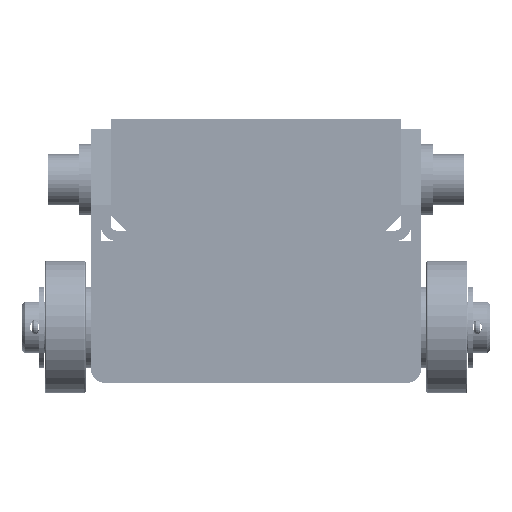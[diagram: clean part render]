
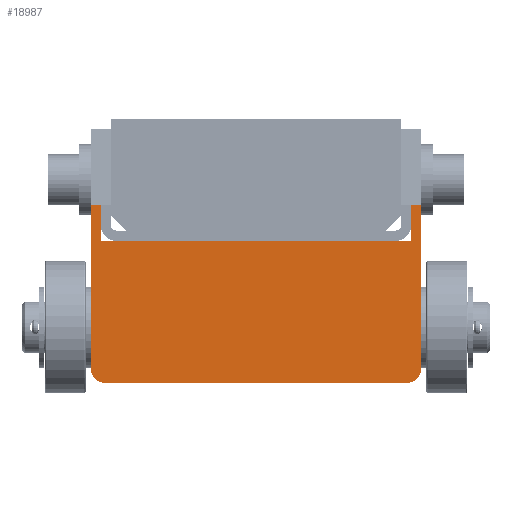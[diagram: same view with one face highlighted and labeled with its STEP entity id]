
A CAD part, front view. The second image highlights one B-rep face of the part: STEP entity #18987.
In plain terms, the highlighted planar face has unit normal (0, -1, 0).
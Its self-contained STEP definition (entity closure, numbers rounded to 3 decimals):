
#3515=FACE_OUTER_BOUND('',#4693,.T.);
#4693=EDGE_LOOP('',(#14072,#14073,#14074,#14075,#14076,#14077,#14078,#14079,
#14080,#14081));
#5993=LINE('',#29578,#7103);
#5997=LINE('',#29587,#7107);
#6002=LINE('',#29596,#7112);
#6007=LINE('',#29605,#7117);
#6021=LINE('',#29636,#7131);
#6029=LINE('',#29659,#7139);
#6030=LINE('',#29661,#7140);
#6034=LINE('',#29672,#7144);
#7103=VECTOR('',#23511,10.);
#7107=VECTOR('',#23517,10.);
#7112=VECTOR('',#23524,10.);
#7117=VECTOR('',#23535,10.);
#7131=VECTOR('',#23559,10.);
#7139=VECTOR('',#23583,10.);
#7140=VECTOR('',#23586,10.);
#7144=VECTOR('',#23600,10.);
#8240=CIRCLE('',#20571,3.);
#8241=CIRCLE('',#20574,3.);
#9202=VERTEX_POINT('',#29574);
#9204=VERTEX_POINT('',#29577);
#9206=VERTEX_POINT('',#29583);
#9208=VERTEX_POINT('',#29586);
#9211=VERTEX_POINT('',#29594);
#9212=VERTEX_POINT('',#29604);
#9224=VERTEX_POINT('',#29634);
#9231=VERTEX_POINT('',#29657);
#9232=VERTEX_POINT('',#29667);
#9233=VERTEX_POINT('',#29671);
#11027=EDGE_CURVE('',#9204,#9202,#5993,.T.);
#11031=EDGE_CURVE('',#9208,#9206,#5997,.T.);
#11036=EDGE_CURVE('',#9211,#9206,#6002,.T.);
#11041=EDGE_CURVE('',#9212,#9204,#6007,.T.);
#11057=EDGE_CURVE('',#9202,#9224,#6021,.T.);
#11069=EDGE_CURVE('',#9224,#9231,#6029,.T.);
#11070=EDGE_CURVE('',#9208,#9231,#6030,.T.);
#11073=EDGE_CURVE('',#9232,#9211,#8240,.T.);
#11075=EDGE_CURVE('',#9232,#9233,#6034,.T.);
#11077=EDGE_CURVE('',#9212,#9233,#8241,.T.);
#14072=ORIENTED_EDGE('',*,*,#11031,.T.);
#14073=ORIENTED_EDGE('',*,*,#11036,.F.);
#14074=ORIENTED_EDGE('',*,*,#11073,.F.);
#14075=ORIENTED_EDGE('',*,*,#11075,.T.);
#14076=ORIENTED_EDGE('',*,*,#11077,.F.);
#14077=ORIENTED_EDGE('',*,*,#11041,.T.);
#14078=ORIENTED_EDGE('',*,*,#11027,.T.);
#14079=ORIENTED_EDGE('',*,*,#11057,.T.);
#14080=ORIENTED_EDGE('',*,*,#11069,.T.);
#14081=ORIENTED_EDGE('',*,*,#11070,.F.);
#18381=PLANE('',#20575);
#18987=ADVANCED_FACE('',(#3515),#18381,.F.);
#20571=AXIS2_PLACEMENT_3D('',#29668,#23595,#23596);
#20574=AXIS2_PLACEMENT_3D('',#29675,#23604,#23605);
#20575=AXIS2_PLACEMENT_3D('',#29676,#23606,#23607);
#23511=DIRECTION('',(-1.,0.,0.));
#23517=DIRECTION('',(-1.,0.,0.));
#23524=DIRECTION('',(0.,0.,1.));
#23535=DIRECTION('',(0.,0.,1.));
#23559=DIRECTION('',(0.,0.,-1.));
#23583=DIRECTION('',(-1.,0.,0.));
#23586=DIRECTION('',(0.,0.,-1.));
#23595=DIRECTION('center_axis',(0.,1.,0.));
#23596=DIRECTION('ref_axis',(0.,0.,-1.));
#23600=DIRECTION('',(1.,0.,0.));
#23604=DIRECTION('center_axis',(0.,1.,0.));
#23605=DIRECTION('ref_axis',(1.,0.,0.));
#23606=DIRECTION('center_axis',(0.,1.,0.));
#23607=DIRECTION('ref_axis',(1.,0.,0.));
#29574=CARTESIAN_POINT('',(30.5,0.,35.));
#29577=CARTESIAN_POINT('',(32.5,0.,35.));
#29578=CARTESIAN_POINT('',(16.25,0.,35.));
#29583=CARTESIAN_POINT('',(-32.5,0.,35.));
#29586=CARTESIAN_POINT('',(-30.5,0.,35.));
#29587=CARTESIAN_POINT('',(16.25,0.,35.));
#29594=CARTESIAN_POINT('',(-32.5,0.,3.));
#29596=CARTESIAN_POINT('',(-32.5,0.,3.));
#29604=CARTESIAN_POINT('',(32.5,0.,3.));
#29605=CARTESIAN_POINT('',(32.5,0.,3.));
#29634=CARTESIAN_POINT('',(30.5,0.,28.));
#29636=CARTESIAN_POINT('',(30.5,0.,50.));
#29657=CARTESIAN_POINT('',(-30.5,0.,28.));
#29659=CARTESIAN_POINT('',(30.5,0.,28.));
#29661=CARTESIAN_POINT('',(-30.5,0.,50.));
#29667=CARTESIAN_POINT('',(-29.5,0.,0.));
#29668=CARTESIAN_POINT('Origin',(-29.5,0.,3.));
#29671=CARTESIAN_POINT('',(29.5,0.,0.));
#29672=CARTESIAN_POINT('',(0.,0.,0.));
#29675=CARTESIAN_POINT('Origin',(29.5,0.,3.));
#29676=CARTESIAN_POINT('Origin',(0.,0.,25.));
